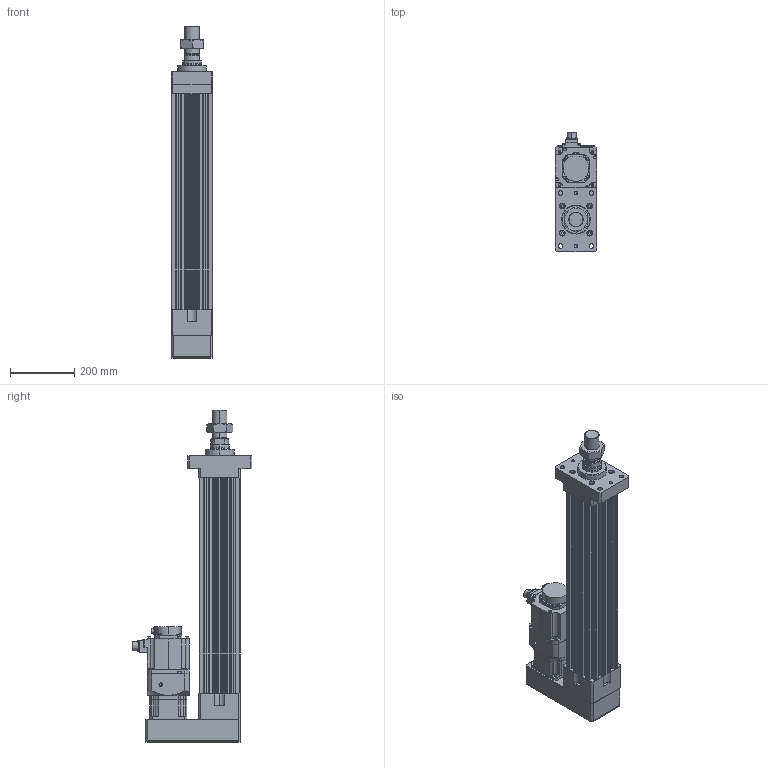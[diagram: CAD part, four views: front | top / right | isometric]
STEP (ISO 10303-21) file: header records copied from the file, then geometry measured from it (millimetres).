
FILE_DESCRIPTION (( 'STEP AP203' ), '1' );
FILE_NAME ('HES130NS(FS)(HS)-P450-W015G00-M-FMB.STEP', '2023-01-29T05:39:08', ( 'tms' ), ( '' ), 'SwSTEP 2.0', 'SolidWorks 2013', '' );
FILE_SCHEMA (( 'CONFIG_CONTROL_DESIGN' ));
Length unit declared in the file: millimetre
Products named in the file (8): M45X1.5P; HES130 ROD M ST450; P0401400706; HES130-P450-G120-FMB; AB115-003[HG-SR152]; HES130NS(FS)(HS)-P450-W015G00-M-FMB; HG-SR152; AB1151
Assembly tree (7 placements, depth 3):
  HES130NS(FS)(HS)-P450-W015G00-M-FMB
    HES130-P450-G120-FMB
    HES130 ROD M ST450
    M45X1.5P
    AB115-003[HG-SR152]
      AB1151
      P0401400706
    HG-SR152
Bounding box: 130 x 372.49 x 1032 mm (x, y, z)
Volume: 12042822.5 mm3; surface area: 1429692.9 mm2
Topology: 4 solids, 11 shells, 1082 faces, 2768 edges, 1799 vertices
Faces by surface type: cylinder 513, plane 489, cone 68, bspline 8, torus 4
Entity records: 34626 total; most frequent: CARTESIAN_POINT 6632, DIRECTION 5993, ORIENTED_EDGE 5484, EDGE_CURVE 2752, AXIS2_PLACEMENT_3D 2228, VERTEX_POINT 1799, VECTOR 1537, LINE 1537
